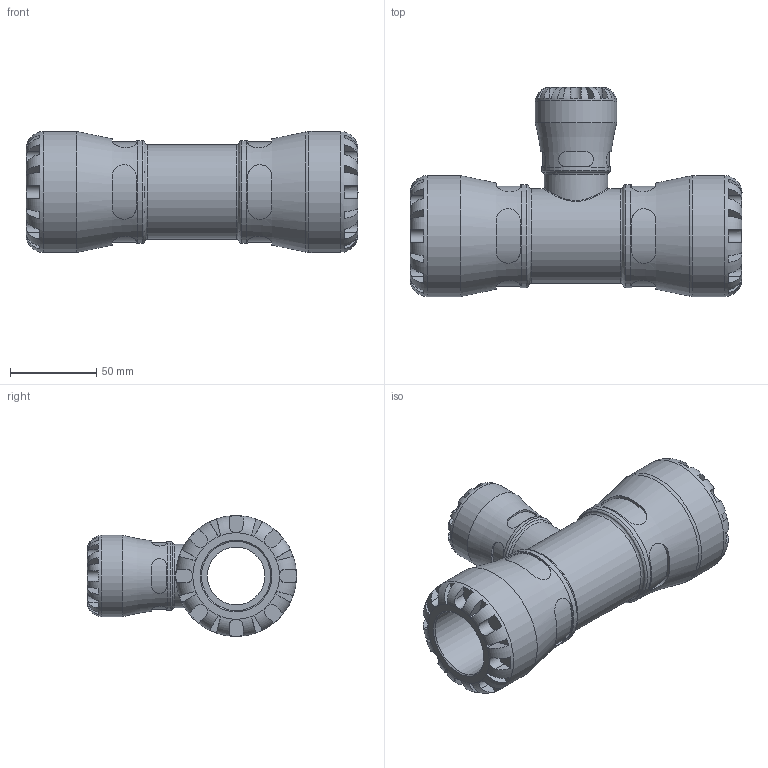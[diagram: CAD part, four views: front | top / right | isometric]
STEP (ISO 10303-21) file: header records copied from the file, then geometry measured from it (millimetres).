
FILE_DESCRIPTION(/* description */ ('PLASSON REDUCING TEE 40X25X40 SERIES 1'),/* implementation_level */ '2;1');
FILE_NAME(/* name */ 'C:\Dropbox\KIMPROJECTS-Inventor\99-16-3568-Processing\1034\103400040025_193400040025.ipt.stp',/* time_stamp */ '2017-01-22T11:40:42+02:00',/* author */ ('KIM'),/* organization */ (''),/* preprocessor_version */ 'ST-DEVELOPER v15.6',/* originating_system */ 'Autodesk Inventor 2015',/* authorisation */ '');
FILE_SCHEMA (('AUTOMOTIVE_DESIGN { 1 0 10303 214 3 1 1 }'));
Length unit declared in the file: millimetre
Products named in the file (1): 103400040025_193400040025
Bounding box: 192 x 121 x 70 mm (x, y, z)
Volume: 404783.2 mm3; surface area: 84355 mm2
Topology: 1 solids, 1 shells, 287 faces, 732 edges, 459 vertices
Faces by surface type: plane 174, cylinder 97, torus 13, cone 2, bspline 1
Full cylindrical faces by diameter (mm): 20.833 x1, 25 x1, 33.333 x1, 36.66 x1, 39.95 x1, 40 x2, 47 x1, 54.6 x1, 59.5 x2, 70 x2
Entity records: 11260 total; most frequent: CARTESIAN_POINT 4450, ORIENTED_EDGE 1364, DIRECTION 1308, EDGE_CURVE 682, AXIS2_PLACEMENT_3D 534, VERTEX_POINT 441, EDGE_LOOP 335, STYLED_ITEM 288
